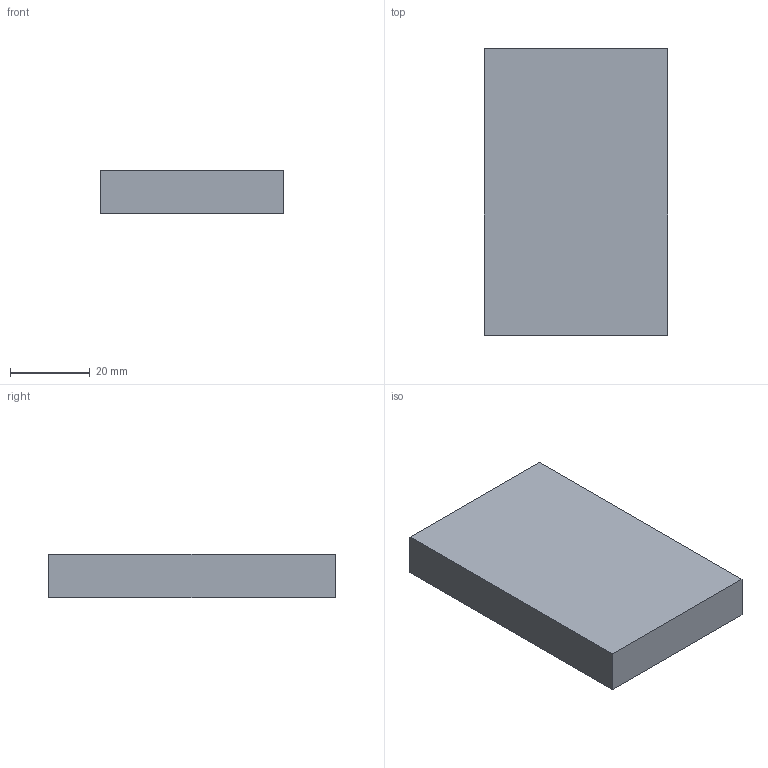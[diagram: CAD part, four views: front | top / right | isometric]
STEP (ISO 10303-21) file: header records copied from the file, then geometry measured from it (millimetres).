
FILE_DESCRIPTION(('Open CASCADE Model'),'2;1');
FILE_NAME('gpsimu_board','2026-08-12T02:42:45',('Author'),( 'Open CASCADE'),'Open CASCADE STEP processor 7.9','build123d', 'Unknown');
FILE_SCHEMA(('AUTOMOTIVE_DESIGN { 1 0 10303 214 1 1 1 1 }'));
Length unit declared in the file: millimetre
Products named in the file (2): gpsimu_board
Assembly tree (1 placements, depth 2):
  gpsimu_board
    gpsimu_board
Bounding box: 46 x 72 x 11 mm (x, y, z)
Volume: 36432 mm3; surface area: 9220 mm2
Topology: 1 solids, 1 shells, 6 faces, 12 edges, 8 vertices
Faces by surface type: plane 6
Entity records: 340 total; most frequent: CARTESIAN_POINT 52, DIRECTION 52, LINE 36, VECTOR 36, ORIENTED_EDGE 24, PCURVE 24, DEFINITIONAL_REPRESENTATION 24, EDGE_CURVE 12
